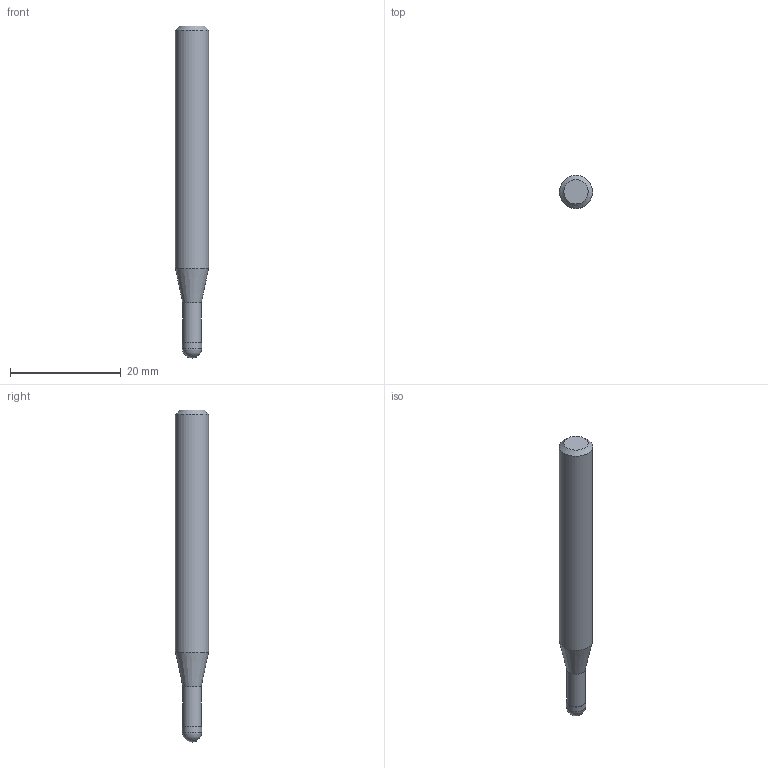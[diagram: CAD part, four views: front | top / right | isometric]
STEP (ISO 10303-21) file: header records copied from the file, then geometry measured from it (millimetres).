
FILE_DESCRIPTION((''),'2;1');
FILE_NAME('C:\Users\nsx150\AppData\Local\Temp\Mastercam 2021\3SYKECWX22\TEMP.step','2021-04-22T10:05:06',(''),(''),'STEP Write','Mastercam 2021 ... CNC Software, Inc.','');
FILE_SCHEMA(('AUTOMOTIVE_DESIGN'));
Length unit declared in the file: millimetre
Products named in the file (1): None
Bounding box: 6 x 6 x 60 mm (x, y, z)
Volume: 1426.6 mm3; surface area: 1062.2 mm2
Topology: 2 solids, 2 shells, 9 faces, 14 edges, 8 vertices
Faces by surface type: plane 3, cylinder 3, cone 2, sphere 1
Full cylindrical faces by diameter (mm): 3.35 x1, 3.5 x1, 6 x1
Entity records: 211 total; most frequent: DIRECTION 36, CARTESIAN_POINT 25, AXIS2_PLACEMENT_3D 18, ORIENTED_EDGE 14, EDGE_LOOP 14, STYLED_ITEM 12, ADVANCED_FACE 9, FACE_BOUND 8
